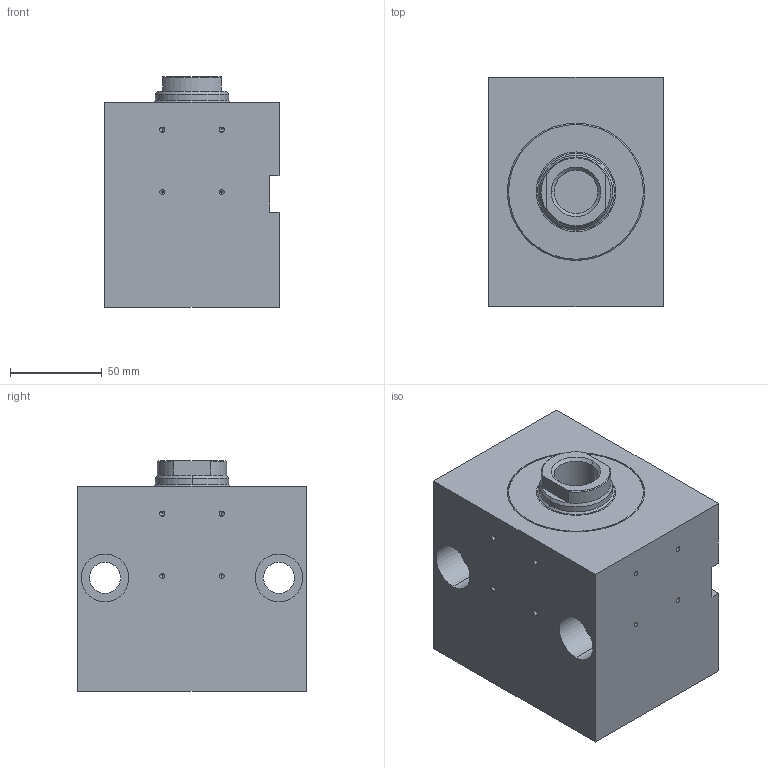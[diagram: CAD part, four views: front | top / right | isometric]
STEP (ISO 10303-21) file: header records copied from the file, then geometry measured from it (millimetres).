
FILE_DESCRIPTION (( 'STEP AP203' ), '1' );
FILE_NAME ('BZ_500.63_40.33.201.040 PP.NS50__DH_0_.STEP', '2022-05-30T15:59:38', ( '' ), ( '' ), 'SwSTEP 2.0', 'SolidWorks 2020', '' );
FILE_SCHEMA (( 'CONFIG_CONTROL_DESIGN' ));
Length unit declared in the file: millimetre
Products named in the file (7): BZ_500.63_40.33.201.040 PP.NS50__DH_0_; BZ_500.63_40.33.201.040 PP.NS50__DH_0_(2)^BZ_500.63_40.33.201.040 PP.NS50__DH_0_; _Dichtungssatz f. BZ_RZ_FZ.63_40.xx.201.40 Artikelnr._ 013832(0)^BZ_500.63_40.33.201.040 PP.NS50__DH_0_(2)_BZ_500.63_40.33.201.040 PP.NS50__DH_0_; _Verschraubung komplett mit Dichtung f. BZ_RZ_FZ.63_40.201, Art.-Nr._ 042987(201)^BZ_500.63_40.33.201.040 PP.NS50__DH_0_(2)_BZ_500.63_40.33.201.040 PP.NS50__DH_0_; _Gehaeuse f. BZ500.63_40.33.201.40.N1.m (m = Nut spiegelbildlich50)Nut rechts, Senkungen links00(150frei1330220))10^BZ_500.63_40.33.201.040 PP.NS50__DH_0_(2)_BZ_500.63_40.33.201.040 PP.NS50__DH_~; _O-Ring 9x2 - Art. 104351^BZ_500.63_40.33.201.040 PP.NS50__DH_0_(2)_BZ_500.63_40.33.201.040 PP.NS50__DH_0_; _Kolbenstange komplett f. BZ_RZ_FZ.63_40.xx.201.40(0_11 1 27 3 0 0 14 40 0 0 0)0^BZ_500.63_40.33.201.040 PP.NS50__DH_0_(2)_BZ_500.63_40.33.201.040 PP.NS50__DH_0_
Assembly tree (7 placements, depth 3):
  BZ_500.63_40.33.201.040 PP.NS50__DH_0_
    BZ_500.63_40.33.201.040 PP.NS50__DH_0_(2)^BZ_500.63_40.33.201.040 PP.NS50__DH_0_
      _Gehaeuse f. BZ500.63_40.33.201.40.N1.m (m = Nut spiegelbildlich50)Nut rechts, Senkungen links00(150frei1330220))10^BZ_500.63_40.33.201.040 PP.NS50__DH_0_(2)_BZ_500.63_40.33.201.040 PP.NS50__DH_~
      _Verschraubung komplett mit Dichtung f. BZ_RZ_FZ.63_40.201, Art.-Nr._ 042987(201)^BZ_500.63_40.33.201.040 PP.NS50__DH_0_(2)_BZ_500.63_40.33.201.040 PP.NS50__DH_0_
      _Dichtungssatz f. BZ_RZ_FZ.63_40.xx.201.40 Artikelnr._ 013832(0)^BZ_500.63_40.33.201.040 PP.NS50__DH_0_(2)_BZ_500.63_40.33.201.040 PP.NS50__DH_0_
      _Kolbenstange komplett f. BZ_RZ_FZ.63_40.xx.201.40(0_11 1 27 3 0 0 14 40 0 0 0)0^BZ_500.63_40.33.201.040 PP.NS50__DH_0_(2)_BZ_500.63_40.33.201.040 PP.NS50__DH_0_
      _O-Ring 9x2 - Art. 104351^BZ_500.63_40.33.201.040 PP.NS50__DH_0_(2)_BZ_500.63_40.33.201.040 PP.NS50__DH_0_  x2
Bounding box: 95 x 125 x 126 mm (x, y, z)
Volume: 1185910.8 mm3; surface area: 154197.1 mm2
Topology: 6 solids, 6 shells, 153 faces, 345 edges, 208 vertices
Faces by surface type: cylinder 70, plane 37, cone 34, torus 12
Entity records: 4960 total; most frequent: CARTESIAN_POINT 863, DIRECTION 773, ORIENTED_EDGE 626, AXIS2_PLACEMENT_3D 320, EDGE_CURVE 313, VERTEX_POINT 198, EDGE_LOOP 187, CIRCLE 164
